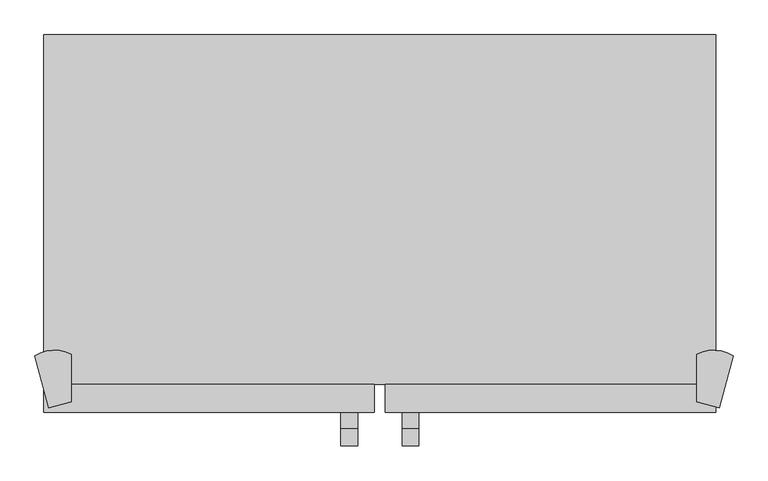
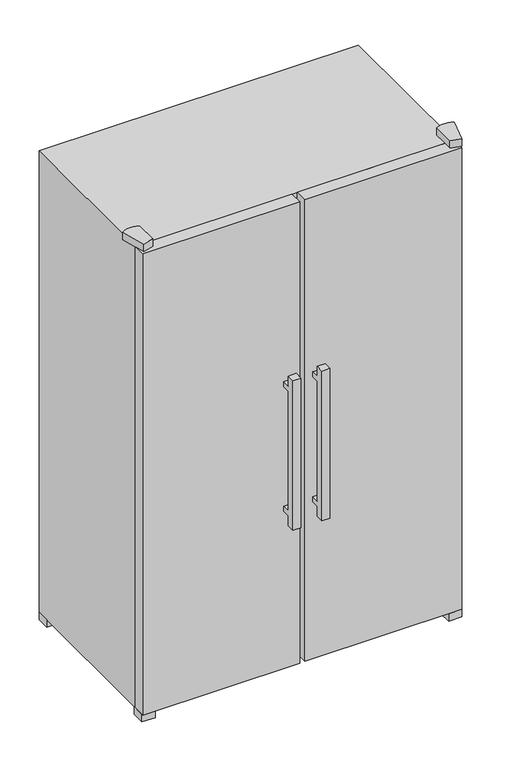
"""IFC4 building model written with IfcOpenShell, lengths in millimetres: proxy geometry, SBSes 7252, SBef 7242 : SBSef 7242."""

from ifc_helpers import new_model, si_unit, point, frame, frame_2d, origin, place, context, project, spatial, polyline, circle_curve, trimmed, segment, composite_curve, outline, extrude, source, transform, mapped, element, save


def specialty_equipment_ab0ed46c(model_context):
    return source(origin(), model_context, "Body", "SweptSolid", [
        extrude(outline(polyline([(210.0, -659.8345306), (210.0, -709.8345306), (160.0, -709.8345306), (160.0, -659.8345306), (210.0, -659.8345306)])), frame((0.0, 0.0, -913.1867483), z_axis=(0.0, 0.0, 1.0), x_axis=(1.0, 0.0, 0.0)), (0.0, 0.0, 1.0), 30.0),
        extrude(outline(polyline([(210.0, -29.8345306), (210.0, -79.8345306), (160.0, -79.8345306), (160.0, -29.8345306), (210.0, -29.8345306)])), frame((0.0, 0.0, -913.1867483), z_axis=(0.0, 0.0, 1.0), x_axis=(1.0, 0.0, 0.0)), (0.0, 0.0, 1.0), 30.0),
        extrude(outline(polyline([(-950.0, -29.8345306), (-950.0, -79.8345306), (-1000.0, -79.8345306), (-1000.0, -29.8345306), (-950.0, -29.8345306)])), frame((0.0, 0.0, -913.1867483), z_axis=(0.0, 0.0, 1.0), x_axis=(1.0, 0.0, 0.0)), (0.0, 0.0, 1.0), 30.0),
        extrude(outline(polyline([(-950.0, -655.0864632), (-950.0, -705.0864632), (-1000.0, -705.0864632), (-1000.0, -655.0864632), (-950.0, -655.0864632)])), frame((0.0, 0.0, -913.1867483), z_axis=(0.0, 0.0, 1.0), x_axis=(1.0, 0.0, 0.0)), (0.0, 0.0, 1.0), 30.0),
        extrude(outline(composite_curve([segment(polyline([(215.4751893, -701.3954664), (175.4211614, -690.663022), (175.4211614, -605.5856816)]), True, "CONTINUOUS"), segment(trimmed(circle_curve(frame_2d((205.8636246, -662.0484332)), 64.1465968), [point((175.4211614, -605.5856816))], [point((240.7822422, -608.2388055))], False, "CARTESIAN"), True, "CONTINUOUS"), segment(polyline([(240.7822422, -608.2388055), (215.4751893, -701.3954664)]), True, "CONTINUOUS")], self_intersect=False)), frame((0.0, 0.0, 966.8132517), z_axis=(0.0, 0.0, 1.0), x_axis=(1.0, 0.0, 0.0)), (0.0, 0.0, 1.0), 30.0),
        extrude(outline(composite_curve([segment(polyline([(-990.4751893, -701.3954664), (-1015.7822422, -608.2388055)]), True, "CONTINUOUS"), segment(trimmed(circle_curve(frame_2d((-980.8636246, -662.0484332)), 64.1465968), [point((-1015.7822422, -608.2388055))], [point((-950.4211614, -605.5856816))], False, "CARTESIAN"), True, "CONTINUOUS"), segment(polyline([(-950.4211614, -605.5856816), (-950.4211614, -690.663022), (-990.4751893, -701.3954664)]), True, "CONTINUOUS")], self_intersect=False)), frame((0.0, 0.0, 966.8132517), z_axis=(0.0, 0.0, 1.0), x_axis=(1.0, 0.0, 0.0)), (0.0, 0.0, 1.0), 30.0),
        extrude(outline(polyline([(-739.8345306, 266.8132517), (-709.8345306, 266.8132517), (-709.8345306, 246.8132517), (-739.8345306, 246.8132517), (-739.8345306, -233.1867483), (-709.8345306, -233.1867483), (-709.8345306, -253.1867483), (-739.8345306, -253.1867483), (-739.8345306, -293.1867483), (-769.8345306, -293.1867483), (-769.8345306, 306.8132517), (-739.8345306, 306.8132517), (-739.8345306, 266.8132517)])), frame((-355.0, 0.0, 0.0), z_axis=(1.0, 0.0, 0.0), x_axis=(0.0, 1.0, 0.0)), (0.0, 0.0, 1.0), 30.0),
        extrude(outline(polyline([(-739.8345306, 266.8132517), (-709.8345306, 266.8132517), (-709.8345306, 246.8132517), (-739.8345306, 246.8132517), (-739.8345306, -233.1867483), (-709.8345306, -233.1867483), (-709.8345306, -253.1867483), (-739.8345306, -253.1867483), (-739.8345306, -293.1867483), (-769.8345306, -293.1867483), (-769.8345306, 306.8132517), (-739.8345306, 306.8132517), (-739.8345306, 266.8132517)])), frame((-465.0, 0.0, 0.0), z_axis=(1.0, 0.0, 0.0), x_axis=(0.0, 1.0, 0.0)), (0.0, 0.0, 1.0), 30.0),
        extrude(outline(polyline([(-405.0, -709.8345306), (-1000.0, -709.8345306), (-1000.0, -659.8345306), (-405.0, -659.8345306), (-405.0, -709.8345306)])), frame((0.0, 0.0, -883.1867483), z_axis=(0.0, 0.0, 1.0), x_axis=(1.0, 0.0, 0.0)), (0.0, 0.0, 1.0), 1850.0),
        extrude(outline(polyline([(210.0, -709.8345306), (-385.0, -709.8345306), (-385.0, -659.8345306), (210.0, -659.8345306), (210.0, -709.8345306)])), frame((0.0, 0.0, -883.1867483), z_axis=(0.0, 0.0, 1.0), x_axis=(1.0, 0.0, 0.0)), (0.0, 0.0, 1.0), 1850.0),
        extrude(outline(polyline([(210.0, -659.8345306), (-1000.0, -659.8345306), (-1000.0, -29.8345306), (210.0, -29.8345306), (210.0, -659.8345306)])), frame((0.0, 0.0, -883.1867483), z_axis=(0.0, 0.0, 1.0), x_axis=(1.0, 0.0, 0.0)), (0.0, 0.0, 1.0), 1850.0),
    ])


if __name__ == "__main__":
    model = new_model("IFC4")
    model_context = context("Model", 3, world=origin())
    ifc_project = project(units=[si_unit("LENGTHUNIT", "METRE", prefix="MILLI")], contexts=[model_context])
    site = spatial("IfcSite", under=ifc_project)
    building = spatial("IfcBuilding", under=site)
    placement = place(None, origin())
    specialty_equipment_shape = specialty_equipment_ab0ed46c(model_context)
    element("IfcBuildingElementProxy", 1, Name="SBSes 7252, SBef 7242 : SBSef 7242", ObjectType="SBSes 7252, SBef 7242 : SBSef 7242", at=placement, inside=building, context=model_context, shape_type="MappedRepresentation", body=[
        mapped(specialty_equipment_shape, transform((0.0, 0.0, 0.0), x_axis=(1.0, 0.0, 0.0), y_axis=(0.0, 1.0, 0.0), z_axis=(0.0, 0.0, 1.0))),
    ])
    save(model, "model.ifc")
